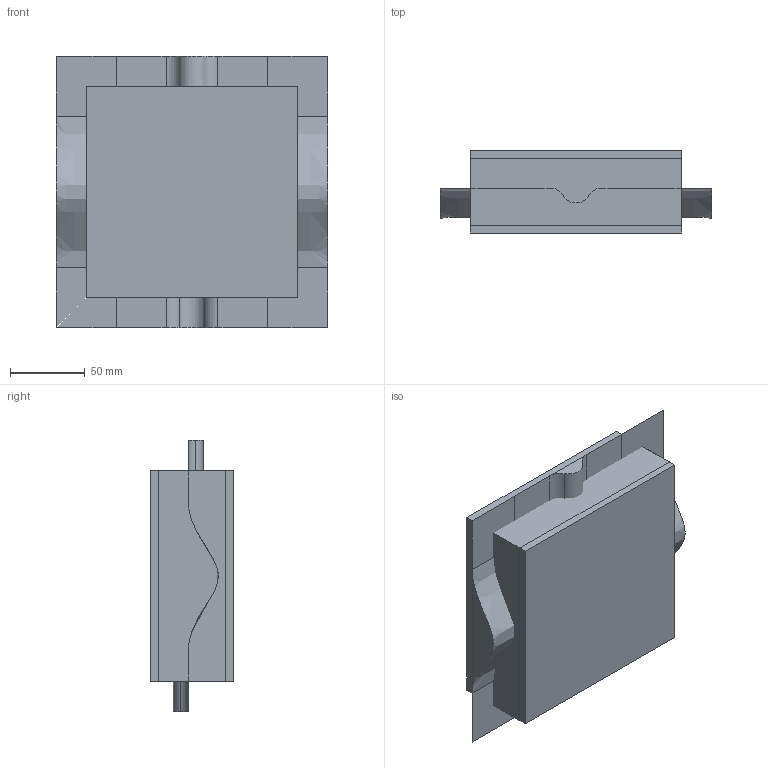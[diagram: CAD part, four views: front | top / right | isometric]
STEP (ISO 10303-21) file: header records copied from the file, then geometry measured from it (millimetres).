
FILE_DESCRIPTION(('CATIA V5 STEP Exchange'),'2;1');
FILE_NAME('C:\_Andres\UNIVERSIDAD\IQS\ASIGNATURAS\DAO\EXF\EXF-16172c\2inicio\Altirriba_Cusco_Ej02_v1.stp','2017-03-05T15:45:12+00:00',('none'),('none'),'CATIA Version 5-6 Release 2014 SP1 HF18','CATIA V5 STEP AP203','none');
FILE_SCHEMA(('CONFIG_CONTROL_DESIGN'));
Length unit declared in the file: millimetre
Products named in the file (1): Altirriba_Cusco_Ej02_v1
Bounding box: 181 x 55 x 181 mm (x, y, z)
Surface area: 207245.7 mm2
Topology: 3 solids, 10 shells, 72 faces, 205 edges, 150 vertices
Faces by surface type: bspline 32, plane 32, cylinder 6, extrusion 2
Entity records: 6152 total; most frequent: CARTESIAN_POINT 4835, ORIENTED_EDGE 288, DIRECTION 151, EDGE_CURVE 132, VERTEX_POINT 84, VECTOR 77, LINE 75, ADVANCED_FACE 72
